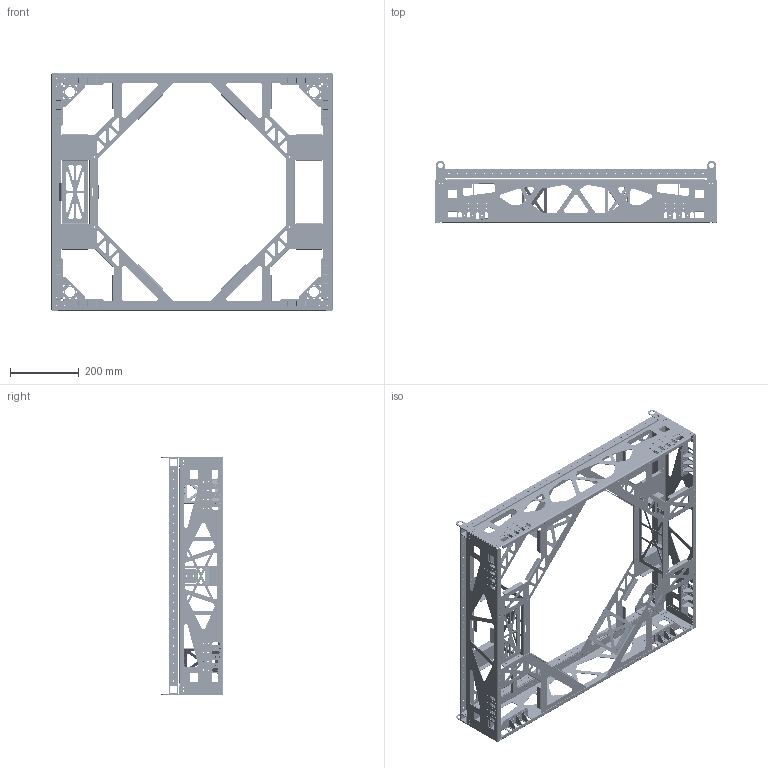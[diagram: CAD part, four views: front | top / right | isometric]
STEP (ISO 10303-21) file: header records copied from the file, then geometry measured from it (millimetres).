
FILE_DESCRIPTION (( 'STEP AP203' ), '1' );
FILE_NAME ('HF-PS-04-0000.STEP', '2023-01-07T04:48:38', ( '' ), ( '' ), 'SwSTEP 2.0', 'SolidWorks 2022', '' );
FILE_SCHEMA (( 'CONFIG_CONTROL_DESIGN' ));
Length unit declared in the file: inch
Products named in the file (17): HF-PS-04-0005_SYM; HF-PS-04-0200; HF-PS-04-0002_defaut_pour découpe; HF-PS-04-0006; HF-PS-04-0202; HF-PS-04-0005_Dessous; HF-PS-04-0000; HF-PS-04-0201_Pour découpe; HF-PS-04-0008; HF-PS-04-0301; HF-PS-04-0001_Pour découpe; HF-PS-04-0005; HF-PS-04-0007_Support normal; 217-4238; HF-PS-04-0002_Sans batterie et pour découpe; HF-PS-04-0005_SYM_config dessous_Dessous; HF-PS-04-0007
Assembly tree (35 placements, depth 3):
  HF-PS-04-0000
    HF-PS-04-0001_Pour découpe  x2
    HF-PS-04-0002_defaut_pour découpe
    HF-PS-04-0002_Sans batterie et pour découpe
    HF-PS-04-0005  x2
    HF-PS-04-0005_Dessous  x2
    HF-PS-04-0005_SYM  x2
    HF-PS-04-0005_SYM_config dessous_Dessous  x2
    HF-PS-04-0006
    HF-PS-04-0007
    HF-PS-04-0007_Support normal
    HF-PS-04-0008  x4
    HF-PS-04-0200  x4
      HF-PS-04-0201_Pour découpe
      HF-PS-04-0202
    HF-PS-04-0301
    217-4238  x4
Bounding box: 815.84 x 179.39 x 688.84 mm (x, y, z)
Volume: 1757712.4 mm3; surface area: 2133356.7 mm2
Topology: 55 solids, 55 shells, 5028 faces, 13938 edges, 9020 vertices
Faces by surface type: cylinder 3244, plane 1784
Entity records: 97073 total; most frequent: DIRECTION 17356, CARTESIAN_POINT 15803, ORIENTED_EDGE 15728, EDGE_CURVE 7864, AXIS2_PLACEMENT_3D 6677, VERTEX_POINT 5124, EDGE_LOOP 4356, LINE 4002
